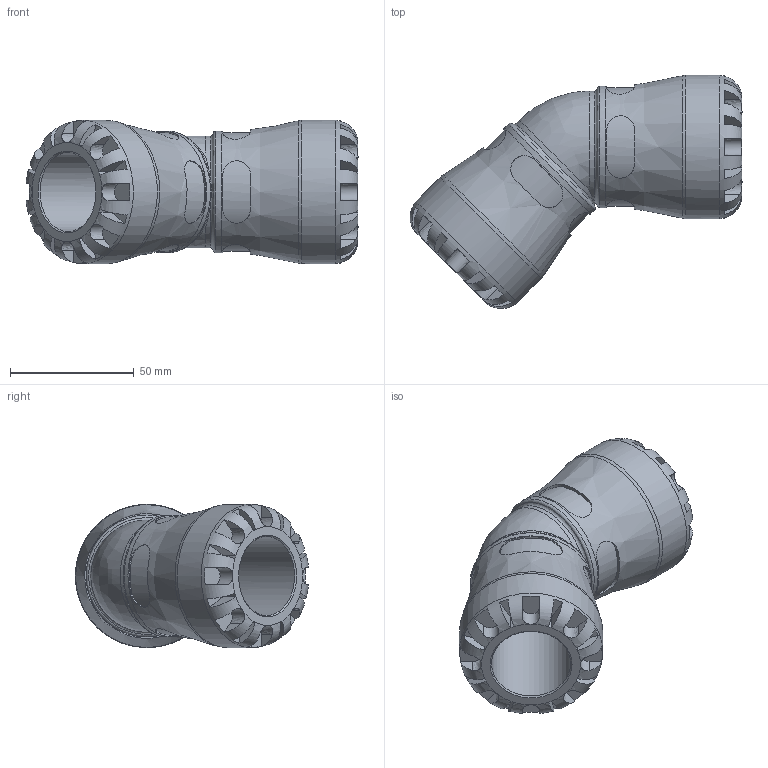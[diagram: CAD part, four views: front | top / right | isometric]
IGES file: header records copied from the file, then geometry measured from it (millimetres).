
Global section: file name: 150600032; native system: Autodesk Inventor 2019; preprocessor: unknown; author: KIM; date: 20231017.193646; units: millimetre
Bounding box: 134.39 x 94.39 x 58 mm (x, y, z)
Volume: 186919 mm3; surface area: 42818.9 mm2
Topology: 1 solids, 1 shells, 196 faces, 524 edges, 336 vertices
Faces by surface type: bspline 196
